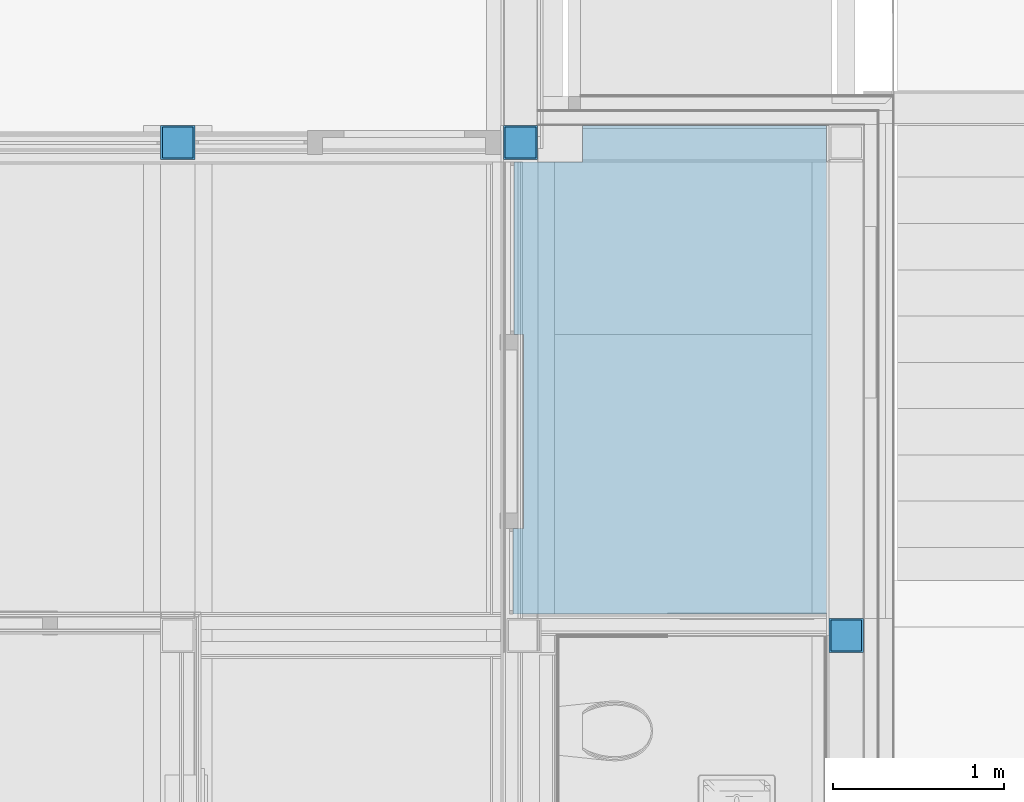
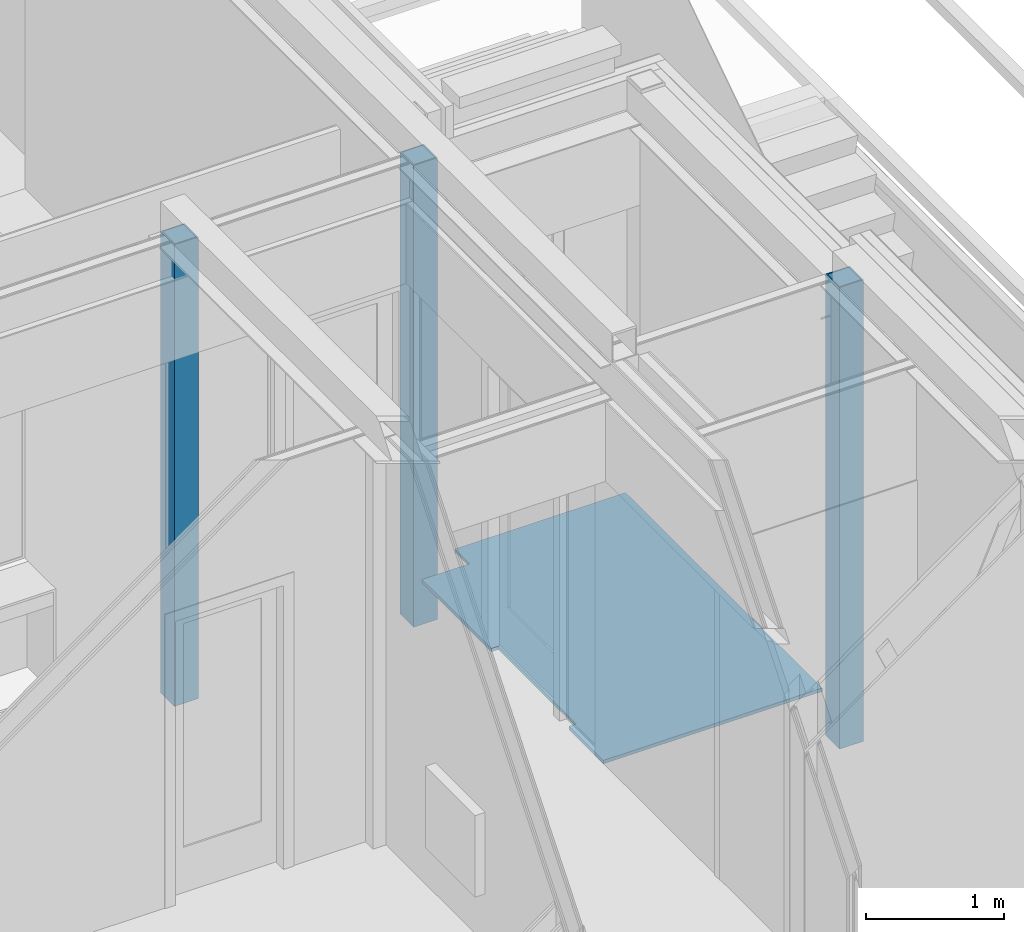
# One storey, part 93 of 165: 7 building element parts, 4 elements without a shape of their own.
"""IFC2X3 building model written with IfcOpenShell, lengths in millimetres."""

import ifcopenshell
import ifcopenshell.guid

model = None  # the IFC model being written
_history = None  # IfcOwnerHistory: only IFC2X3 demands one
_inside = {}  # id of a spatial element -> (the spatial element, [elements in it])
_under = {}  # id of a project, library or spatial element -> (it, [spatial elements below it])
_declared = {}  # id of a project -> (the project, [libraries it declares])
_typed = {}  # id of a type object -> (the type object, [elements of that type])
_made_of = {}  # id of a material, layer set ... -> (it, [elements and type objects made of it])


def new_model(schema):
    """Start an empty IFC model of exactly this schema.

    Asked for "IFC4X3", IfcOpenShell would pick the latest addendum, in which some entities
    have other attributes; the version numbers below select the first issue.
    IFC2X3 requires an IfcOwnerHistory on every rooted entity: one is made here for all.
    """
    global model, _history
    if schema == "IFC4X3":
        model = ifcopenshell.file(schema_version=(4, 3, 0, 0))
    else:
        model = ifcopenshell.file(schema=schema)
    _inside.clear()
    _under.clear()
    _declared.clear()
    _typed.clear()
    _made_of.clear()
    _history = None
    if model.schema == "IFC2X3":
        org = make("IfcOrganization", Name="unknown")
        user = make(
            "IfcPersonAndOrganization",
            ThePerson=make("IfcPerson", FamilyName="unknown"),
            TheOrganization=org,
        )
        app = make(
            "IfcApplication",
            ApplicationDeveloper=org,
            Version="unknown",
            ApplicationFullName="unknown",
            ApplicationIdentifier="unknown",
        )
        _history = make(
            "IfcOwnerHistory",
            OwningUser=user,
            OwningApplication=app,
            ChangeAction="ADDED",
            CreationDate=0,
        )
    return model


def make(cls, **values):
    """One entity of the class cls with the attributes given. An attribute that is None is left unset."""
    return model.create_entity(
        cls, **{name: value for name, value in values.items() if value is not None}
    )


def entity(cls, *values):
    """Any entity or typed value of the class cls, its attributes in the order of the schema. None: left unset."""
    e = model.create_entity(cls)
    for i, value in enumerate(values):
        if value is not None:
            e[i] = value
    return e


def rooted(cls, **values):
    """An entity with a GlobalId (a new one), such as an element, a storey or a relation."""
    return make(cls, GlobalId=ifcopenshell.guid.new(), OwnerHistory=_history, **values)


def si_unit(unit_type, name, prefix=None):
    """IfcSIUnit, for example si_unit("LENGTHUNIT", "METRE", prefix="MILLI")."""
    return make("IfcSIUnit", UnitType=unit_type, Prefix=prefix, Name=name)


def converted_unit(unit_type, name, factor, base, dimensions=None, offset=None):
    """IfcConversionBasedUnit, such as the inch: factor (a typed value) times the base unit."""
    return make(
        "IfcConversionBasedUnit"
        if offset is None
        else "IfcConversionBasedUnitWithOffset",
        ConversionOffset=offset,
        Dimensions=None
        if dimensions is None
        else entity("IfcDimensionalExponents", *dimensions),
        UnitType=unit_type,
        Name=name,
        ConversionFactor=make(
            "IfcMeasureWithUnit", ValueComponent=factor, UnitComponent=base
        ),
    )


def derived_unit(unit_type, elements):
    """IfcDerivedUnit: a product of units, each with its exponent."""
    return make(
        "IfcDerivedUnit",
        Elements=[
            make("IfcDerivedUnitElement", Unit=unit, Exponent=power)
            for unit, power in elements
        ],
        UnitType=unit_type,
    )


def money_unit(currency):
    """IfcMonetaryUnit."""
    return make("IfcMonetaryUnit", Currency=currency)


def assignment(units):
    """IfcUnitAssignment: the units of a project."""
    return None if units is None else make("IfcUnitAssignment", Units=units)


def point(xyz):
    """IfcCartesianPoint."""
    return None if xyz is None else make("IfcCartesianPoint", Coordinates=xyz)


def direction(xyz):
    """IfcDirection."""
    return None if xyz is None else make("IfcDirection", DirectionRatios=xyz)


def frame(location, z_axis=None, x_axis=None):
    """IfcAxis2Placement3D, a coordinate frame: its origin and axes. An axis left out is left unset."""
    return make(
        "IfcAxis2Placement3D",
        Location=point(location),
        Axis=direction(z_axis),
        RefDirection=direction(x_axis),
    )


def origin_with_axes():
    """The frame at (0, 0, 0) with the z axis (0, 0, 1) and the x axis (1, 0, 0) written out."""
    return frame((0.0, 0.0, 0.0), z_axis=(0.0, 0.0, 1.0), x_axis=(1.0, 0.0, 0.0))


def place(relative_to, where):
    """IfcLocalPlacement: puts the frame where relative to a parent placement (None: the world)."""
    return make(
        "IfcLocalPlacement", PlacementRelTo=relative_to, RelativePlacement=where
    )


def context(
    kind, dimensions, precision=None, world=None, true_north=None, identifier=None
):
    """IfcGeometricRepresentationContext, for example the 3D "Model" context."""
    return make(
        "IfcGeometricRepresentationContext",
        ContextIdentifier=identifier,
        ContextType=kind,
        CoordinateSpaceDimension=dimensions,
        Precision=precision,
        WorldCoordinateSystem=world,
        TrueNorth=true_north,
    )


def subcontext(parent, identifier, kind, view, scale=None):
    """IfcGeometricRepresentationSubContext, for example "Body" below "Model"."""
    return make(
        "IfcGeometricRepresentationSubContext",
        ContextIdentifier=identifier,
        ContextType=kind,
        ParentContext=parent,
        TargetScale=scale,
        TargetView=view,
    )


def project(units=None, contexts=None):
    """IfcProject with its units and contexts."""
    return rooted(
        "IfcProject",
        Name="project",
        RepresentationContexts=contexts,
        UnitsInContext=assignment(units),
    )


def spatial(cls, under=None, at=None, **own):
    """A site, building, storey or space (cls), placed at a placement, below another one or the project."""
    s = rooted(cls, ObjectPlacement=at, **own)
    if under is not None:
        _under.setdefault(under.id(), (under, []))[1].append(s)
    return s


def faces_of(points, faces, orient=None, outer=None):
    """IfcFace entities. A face is a list of loops; a loop is a list of indices into points, from 0.

    orient and outer hold one flag for each loop. By default every Orientation is true, the
    first loop of a face is its IfcFaceOuterBound and the others are IfcFaceBound.
    """
    made = []
    for i, loops in enumerate(faces):
        bounds = []
        for j, loop in enumerate(loops):
            is_outer = j == 0 if outer is None else outer[i][j]
            bounds.append(
                make(
                    "IfcFaceOuterBound" if is_outer else "IfcFaceBound",
                    Bound=make("IfcPolyLoop", Polygon=[points[k] for k in loop]),
                    Orientation=True if orient is None else orient[i][j],
                )
            )
        made.append(make("IfcFace", Bounds=bounds))
    return made


def faceted_brep(points, faces, orient=None, outer=None, voids=None):
    """IfcFacetedBrep: a solid bounded by flat faces; with voids (closed shells), ...WithVoids."""
    shared = [point(p) for p in points]
    hull = make("IfcClosedShell", CfsFaces=faces_of(shared, faces, orient, outer))
    if voids is None:
        return make("IfcFacetedBrep", Outer=hull)
    return make(
        "IfcFacetedBrepWithVoids",
        Outer=hull,
        Voids=[
            make(cls, CfsFaces=faces_of(shared, fs, o, b)) for cls, fs, o, b in voids
        ],
    )


def shape(context_of_items, identifier, shape_type, items):
    """IfcShapeRepresentation: the items that make up one representation, for example the "Body"."""
    return make(
        "IfcShapeRepresentation",
        ContextOfItems=context_of_items,
        RepresentationIdentifier=identifier,
        RepresentationType=shape_type,
        Items=items,
    )


def material(Name=None, Category=None):
    """IfcMaterial."""
    return make("IfcMaterial", Name=Name, Category=Category)


def made_of(thing, what):
    """Note that an element or type object is made of a material, layer set ...; save() writes the relation."""
    if what is not None:
        _made_of.setdefault(what.id(), (what, []))[1].append(thing)
    return thing


def type_object(cls, material=None, **own):
    """A type object (cls), such as IfcWallType, which elements share."""
    return made_of(rooted(cls, **own), material)


def element(
    cls,
    number,
    at=None,
    inside=None,
    cuts=None,
    type_object=None,
    material=None,
    context=None,
    identifier="Body",
    shape_type=None,
    held_by="IfcProductDefinitionShape",
    body=None,
    shapes=None,
    **own,
):
    """One element of the class cls, such as IfcWall. Its Tag is "e" and its number.

    at: its placement. inside: the storey or other place that contains it. cuts: it is an
    opening in that element (IfcRelVoidsElement). A single representation is given by context,
    identifier, shape_type and body (its items); several are given by shapes. held_by: the class
    of the entity that holds the representations. save() writes the other relations.
    """
    e = rooted(cls, Tag="e%d" % number, ObjectPlacement=at, **own)
    if body is not None:
        shapes = [shape(context, identifier, shape_type, body)]
    if shapes is not None:
        e.Representation = make(held_by, Representations=shapes)
    if inside is not None:
        _inside.setdefault(inside.id(), (inside, []))[1].append(e)
    if cuts is not None:
        rooted(
            "IfcRelVoidsElement", RelatingBuildingElement=cuts, RelatedOpeningElement=e
        )
    if type_object is not None:
        _typed.setdefault(type_object.id(), (type_object, []))[1].append(e)
    return made_of(e, material)


def aggregate(whole, parts):
    """IfcRelAggregates: a whole, such as a stair, and the parts it consists of."""
    return rooted("IfcRelAggregates", RelatingObject=whole, RelatedObjects=parts)


def save(model, path):
    """Write the relations noted so far, then the file.

    IfcRelAggregates (storeys below a building ...), IfcRelContainedInSpatialStructure (elements
    in a storey), IfcRelDefinesByType, IfcRelAssociatesMaterial and IfcRelDeclares: one each for
    every whole, place, type object, material and project.
    """
    for whole, parts in _under.values():
        aggregate(whole, parts)
    for where, things in _inside.values():
        rooted(
            "IfcRelContainedInSpatialStructure",
            RelatedElements=things,
            RelatingStructure=where,
        )
    for kind, things in _typed.values():
        rooted("IfcRelDefinesByType", RelatedObjects=things, RelatingType=kind)
    for what, things in _made_of.values():
        rooted("IfcRelAssociatesMaterial", RelatedObjects=things, RelatingMaterial=what)
    for by, libraries in _declared.values():
        rooted("IfcRelDeclares", RelatingContext=by, RelatedDefinitions=libraries)
    model.write(path)


model = new_model("IFC2X3")

# Units and contexts
model_context = context("Model", 3, precision=0.01, world=origin_with_axes(), true_north=direction((0.0, 1.0)))
body_context = subcontext(model_context, "Body", "Model", "MODEL_VIEW")
ifc_project = project(units=[si_unit("LENGTHUNIT", "METRE", prefix="MILLI"), si_unit("AREAUNIT", "SQUARE_METRE"), si_unit("VOLUMEUNIT", "CUBIC_METRE"), converted_unit("PLANEANGLEUNIT", "DEGREE", entity("IfcPlaneAngleMeasure", 0.0174532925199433), si_unit("PLANEANGLEUNIT", "RADIAN"), dimensions=[0, 0, 0, 0, 0, 0, 0]), money_unit("EUR"), converted_unit("TIMEUNIT", "Year", entity("IfcTimeMeasure", 31556926.0), si_unit("TIMEUNIT", "SECOND"), dimensions=[0, 0, 1, 0, 0, 0, 0]), si_unit("MASSUNIT", "GRAM", prefix="KILO"), si_unit("THERMODYNAMICTEMPERATUREUNIT", "DEGREE_CELSIUS"), si_unit("LUMINOUSINTENSITYUNIT", "LUMEN"), si_unit("ENERGYUNIT", "JOULE", prefix="MEGA"), derived_unit("THERMALCONDUCTANCEUNIT", [(si_unit("POWERUNIT", "WATT"), 1), (si_unit("LENGTHUNIT", "METRE"), -1), (si_unit("THERMODYNAMICTEMPERATUREUNIT", "KELVIN"), -1)]), derived_unit("SPECIFICHEATCAPACITYUNIT", [(si_unit("ENERGYUNIT", "JOULE"), 1), (si_unit("MASSUNIT", "GRAM", prefix="KILO"), -1), (si_unit("THERMODYNAMICTEMPERATUREUNIT", "KELVIN"), -1)]), derived_unit("MASSDENSITYUNIT", [(si_unit("MASSUNIT", "GRAM", prefix="KILO"), 1), (si_unit("VOLUMEUNIT", "CUBIC_METRE"), -1)])], contexts=[model_context])

# Site, building, storey
site_placement = place(None, origin_with_axes())
site = spatial("IfcSite", under=ifc_project, at=site_placement, Name="Site", CompositionType="ELEMENT")
building_placement = place(site_placement, origin_with_axes())
building = spatial("IfcBuilding", under=site, at=building_placement, Name="Naam gebouw", CompositionType="ELEMENT")
storey_placement = place(building_placement, origin_with_axes())
storey = spatial("IfcBuildingStorey", under=building, at=storey_placement, Name="Begane grond", CompositionType="ELEMENT", Elevation=0.0)

# Column, building element parts
column_type = type_object("IfcColumnType", Name="200X200X10 200 x 200", PredefinedType="COLUMN")
column_1_placement = place(storey_placement, frame((24499.99903999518, 22324.99984707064, -480.0), z_axis=(0.0, 0.0, 1.0), x_axis=(1.0, 0.0, 0.0)))
column_1 = element("IfcColumn", 1, at=column_1_placement, inside=storey, type_object=column_type, Name="28_Kolom-x", ObjectType="COLUMN")
ifc_material_1 = material(Name="Beton gewapend C")
building_element_part_1_placement = place(column_1_placement, origin_with_axes())
building_element_part_1 = element("IfcBuildingElementPart", 2, at=building_element_part_1_placement, material=ifc_material_1, Name="Beton gewapend C", context=body_context, shape_type="Brep", body=[
    faceted_brep([(-89.99999999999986, 89.99999999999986, 4060.000029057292), (89.99999999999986, 89.99999999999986, 4060.000029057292), (89.99999999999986, 89.99999999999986, 0.0), (-89.99999999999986, 89.99999999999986, 0.0), (89.99999999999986, -89.99999999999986, 4060.000029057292), (-89.99999999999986, -89.99999999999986, 4060.000029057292), (89.99999999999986, -89.99999999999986, 0.0), (-89.99999999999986, -89.99999999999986, 0.0)], [[[0, 1, 2, 3]], [[4, 1, 0, 5]], [[1, 4, 6, 2]], [[2, 6, 7, 3]], [[5, 0, 3, 7]], [[4, 5, 7, 6]]]),
    faceted_brep([(89.99999999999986, -89.99999999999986, 4075.000029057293), (89.99999999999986, 89.99999999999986, 4075.000029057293), (89.99999999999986, 89.99999999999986, 4079.999999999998), (89.99999999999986, -89.99999999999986, 4079.999999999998), (-89.99999999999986, 89.99999999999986, 4075.000029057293), (-89.99999999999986, -89.99999999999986, 4075.000029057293), (-89.99999999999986, 89.99999999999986, 4079.999999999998), (-89.99999999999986, -89.99999999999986, 4079.999999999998)], [[[0, 1, 2, 3]], [[4, 1, 0, 5]], [[1, 4, 6, 2]], [[2, 6, 7, 3]], [[5, 0, 3, 7]], [[4, 5, 7, 6]]]),
])
ifc_material_2 = material(Name="Metaal - Staal C")
building_element_part_2_placement = place(column_1_placement, origin_with_axes())
building_element_part_2 = element("IfcBuildingElementPart", 3, at=building_element_part_2_placement, material=ifc_material_2, Name="Metaal - Staal C", context=body_context, shape_type="Brep", body=[
    faceted_brep([(-100.0000000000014, -100.0000000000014, 0.0), (100.0000000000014, -100.0000000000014, 0.0), (100.0000000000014, -100.0000000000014, 4079.999999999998), (-100.0000000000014, -100.0000000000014, 4079.999999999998), (-100.0000000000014, 100.0000000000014, 0.0), (100.0000000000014, 100.0000000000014, 0.0), (-89.99999999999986, -89.99999999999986, 0.0), (89.99999999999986, -89.99999999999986, 0.0), (89.99999999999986, 89.99999999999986, 0.0), (-89.99999999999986, 89.99999999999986, 0.0), (100.0000000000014, 100.0000000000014, 4079.999999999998), (-100.0000000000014, 100.0000000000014, 4079.999999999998), (-89.99999999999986, -89.99999999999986, 4079.999999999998), (-89.99999999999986, 89.99999999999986, 4079.999999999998), (89.99999999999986, 89.99999999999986, 4079.999999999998), (89.99999999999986, -89.99999999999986, 4079.999999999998)], [[[0, 1, 2, 3]], [[0, 4, 5, 1], [6, 7, 8, 9]], [[1, 5, 10, 2]], [[3, 2, 10, 11], [12, 13, 14, 15]], [[4, 0, 3, 11]], [[5, 4, 11, 10]], [[7, 6, 12, 15]], [[8, 7, 15, 14]], [[9, 8, 14, 13]], [[6, 9, 13, 12]]]),
])
aggregate(column_1, [building_element_part_1, building_element_part_2])

column_2_placement = place(storey_placement, frame((28399.99998415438, 19450.00039292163, -480.0), z_axis=(0.0, 0.0, 1.0), x_axis=(1.0, 0.0, 0.0)))
column_2 = element("IfcColumn", 4, at=column_2_placement, inside=storey, type_object=column_type, Name="28_Kolom-x", ObjectType="COLUMN")
building_element_part_3_placement = place(column_2_placement, origin_with_axes())
building_element_part_3 = element("IfcBuildingElementPart", 5, at=building_element_part_3_placement, material=ifc_material_1, Name="Beton gewapend C", context=body_context, shape_type="Brep", body=[
    faceted_brep([(89.99999999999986, 0.0, 4030.0), (89.99999999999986, 0.0, 4050.000000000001), (89.99999999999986, 89.99999999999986, 4050.000000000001), (89.99999999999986, 89.99999999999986, 4079.999999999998), (89.99999999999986, -89.99999999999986, 4079.999999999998), (89.99999999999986, -89.99999999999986, 4074.999999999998), (89.99999999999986, 0.0, 4074.999999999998), (89.99999999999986, 0.0, 4062.999999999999), (89.99999999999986, -89.99999999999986, 4062.999999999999), (89.99999999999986, -89.99999999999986, 0.0), (89.99999999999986, 89.99999999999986, 0.0), (89.99999999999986, 89.99999999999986, 3773.0), (89.99999999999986, 0.0, 3773.0), (89.99999999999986, 0.0, 3785.0), (89.99999999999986, 89.99999999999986, 3785.0), (89.99999999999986, 89.99999999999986, 4030.0), (-89.99999999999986, 0.0, 4030.0), (-89.99999999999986, 0.0, 4050.000000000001), (-89.99999999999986, 89.99999999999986, 4050.000000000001), (-89.99999999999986, 89.99999999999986, 4079.999999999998), (-89.99999999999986, -89.99999999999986, 4079.999999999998), (-89.99999999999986, -89.99999999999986, 4074.999999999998), (-89.99999999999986, 0.0, 4074.999999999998), (-89.99999999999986, 0.0, 4062.999999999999), (-89.99999999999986, -89.99999999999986, 4062.999999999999), (-89.99999999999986, -89.99999999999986, 0.0), (-89.99999999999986, 89.99999999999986, 0.0), (-89.99999999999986, 89.99999999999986, 3773.0), (-89.99999999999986, 0.0, 3773.0), (-89.99999999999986, 0.0, 3785.0), (-89.99999999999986, 89.99999999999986, 3785.0), (-89.99999999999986, 89.99999999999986, 4030.0)], [[[0, 1, 2, 3, 4, 5, 6, 7, 8, 9, 10, 11, 12, 13, 14, 15]], [[1, 0, 16, 17]], [[18, 2, 1, 17]], [[2, 18, 19, 3]], [[3, 19, 20, 4]], [[21, 5, 4, 20]], [[6, 5, 21, 22]], [[7, 6, 22, 23]], [[8, 7, 23, 24]], [[8, 24, 25, 9]], [[10, 9, 25, 26]], [[27, 11, 10, 26]], [[12, 11, 27, 28]], [[13, 12, 28, 29]], [[30, 14, 13, 29]], [[31, 15, 14, 30]], [[0, 15, 31, 16]], [[16, 31, 30, 29, 28, 27, 26, 25, 24, 23, 22, 21, 20, 19, 18, 17]]]),
])
building_element_part_4_placement = place(column_2_placement, origin_with_axes())
building_element_part_4 = element("IfcBuildingElementPart", 6, at=building_element_part_4_placement, material=ifc_material_2, Name="Metaal - Staal C", context=body_context, shape_type="Brep", body=[
    faceted_brep([(-100.0000000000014, -100.0000000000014, 0.0), (100.0000000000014, -100.0000000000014, 0.0), (100.0000000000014, -100.0000000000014, 4079.999999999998), (-100.0000000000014, -100.0000000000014, 4079.999999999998), (-100.0000000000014, 100.0000000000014, 0.0), (100.0000000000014, 100.0000000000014, 0.0), (-89.99999999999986, -89.99999999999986, 0.0), (89.99999999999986, -89.99999999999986, 0.0), (89.99999999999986, 89.99999999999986, 0.0), (-89.99999999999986, 89.99999999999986, 0.0), (100.0000000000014, 100.0000000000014, 4079.999999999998), (-100.0000000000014, 100.0000000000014, 4079.999999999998), (-89.99999999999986, -89.99999999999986, 4079.999999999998), (-89.99999999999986, 89.99999999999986, 4079.999999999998), (89.99999999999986, 89.99999999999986, 4079.999999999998), (89.99999999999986, -89.99999999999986, 4079.999999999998)], [[[0, 1, 2, 3]], [[0, 4, 5, 1], [6, 7, 8, 9]], [[1, 5, 10, 2]], [[3, 2, 10, 11], [12, 13, 14, 15]], [[4, 0, 3, 11]], [[5, 4, 11, 10]], [[7, 6, 12, 15]], [[8, 7, 15, 14]], [[9, 8, 14, 13]], [[6, 9, 13, 12]]]),
])
aggregate(column_2, [building_element_part_3, building_element_part_4])

column_3_placement = place(storey_placement, frame((26500.0, 22324.99984707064, -480.0), z_axis=(0.0, 0.0, 1.0), x_axis=(1.0, 0.0, 0.0)))
column_3 = element("IfcColumn", 7, at=column_3_placement, inside=storey, type_object=column_type, Name="28_Kolom-x", ObjectType="COLUMN")
building_element_part_5_placement = place(column_3_placement, origin_with_axes())
building_element_part_5 = element("IfcBuildingElementPart", 8, at=building_element_part_5_placement, material=ifc_material_1, Name="Beton gewapend C", context=body_context, shape_type="Brep", body=[
    faceted_brep([(-89.99999999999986, 89.99999999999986, 3773.0), (89.99999999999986, 89.99999999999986, 3773.0), (89.99999999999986, 89.99999999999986, 0.0), (-89.99999999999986, 89.99999999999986, 0.0), (89.99999999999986, -89.99999999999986, 3773.0), (-89.99999999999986, -89.99999999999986, 3773.0), (89.99999999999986, -89.99999999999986, 0.0), (-89.99999999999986, -89.99999999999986, 0.0)], [[[0, 1, 2, 3]], [[4, 1, 0, 5]], [[1, 4, 6, 2]], [[2, 6, 7, 3]], [[5, 0, 3, 7]], [[4, 5, 7, 6]]]),
    faceted_brep([(89.99999999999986, 89.99999999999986, 4030.0), (89.99999999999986, -89.99999999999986, 4030.0), (89.99999999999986, -89.99999999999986, 3785.0), (89.99999999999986, 89.99999999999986, 3785.0), (-89.99999999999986, 89.99999999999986, 4030.0), (-89.99999999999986, -89.99999999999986, 4030.0), (-89.99999999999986, -89.99999999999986, 3785.0), (-89.99999999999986, 89.99999999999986, 3785.0)], [[[0, 1, 2, 3]], [[1, 0, 4, 5]], [[1, 5, 6, 2]], [[7, 3, 2, 6]], [[4, 0, 3, 7]], [[5, 4, 7, 6]]]),
    faceted_brep([(-89.99999999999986, 89.99999999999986, 4063.0), (89.99999999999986, 89.99999999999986, 4063.0), (89.99999999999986, 89.99999999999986, 4050.000000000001), (-89.99999999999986, 89.99999999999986, 4050.000000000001), (89.99999999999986, -89.99999999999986, 4063.0), (-89.99999999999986, -89.99999999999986, 4063.0), (89.99999999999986, -89.99999999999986, 4050.000000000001), (-89.99999999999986, -89.99999999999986, 4050.000000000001)], [[[0, 1, 2, 3]], [[4, 1, 0, 5]], [[1, 4, 6, 2]], [[3, 2, 6, 7]], [[5, 0, 3, 7]], [[4, 5, 7, 6]]]),
    faceted_brep([(89.99999999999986, -89.99999999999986, 4074.999999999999), (89.99999999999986, 89.99999999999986, 4074.999999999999), (89.99999999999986, 89.99999999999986, 4079.999999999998), (89.99999999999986, -89.99999999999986, 4079.999999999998), (-89.99999999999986, 89.99999999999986, 4074.999999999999), (-89.99999999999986, -89.99999999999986, 4074.999999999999), (-89.99999999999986, 89.99999999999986, 4079.999999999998), (-89.99999999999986, -89.99999999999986, 4079.999999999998)], [[[0, 1, 2, 3]], [[4, 1, 0, 5]], [[1, 4, 6, 2]], [[2, 6, 7, 3]], [[5, 0, 3, 7]], [[4, 5, 7, 6]]]),
])
building_element_part_6_placement = place(column_3_placement, origin_with_axes())
building_element_part_6 = element("IfcBuildingElementPart", 9, at=building_element_part_6_placement, material=ifc_material_2, Name="Metaal - Staal C", context=body_context, shape_type="Brep", body=[
    faceted_brep([(-100.0000000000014, -100.0000000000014, 0.0), (100.0000000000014, -100.0000000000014, 0.0), (100.0000000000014, -100.0000000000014, 4079.999999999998), (-100.0000000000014, -100.0000000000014, 4079.999999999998), (-100.0000000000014, 100.0000000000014, 0.0), (100.0000000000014, 100.0000000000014, 0.0), (-89.99999999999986, -89.99999999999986, 0.0), (89.99999999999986, -89.99999999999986, 0.0), (89.99999999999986, 89.99999999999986, 0.0), (-89.99999999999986, 89.99999999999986, 0.0), (100.0000000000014, 100.0000000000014, 4079.999999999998), (-100.0000000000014, 100.0000000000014, 4079.999999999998), (-89.99999999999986, -89.99999999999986, 4079.999999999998), (-89.99999999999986, 89.99999999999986, 4079.999999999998), (89.99999999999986, 89.99999999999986, 4079.999999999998), (89.99999999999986, -89.99999999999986, 4079.999999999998)], [[[0, 1, 2, 3]], [[0, 4, 5, 1], [6, 7, 8, 9]], [[1, 5, 10, 2]], [[3, 2, 10, 11], [12, 13, 14, 15]], [[4, 0, 3, 11]], [[5, 4, 11, 10]], [[7, 6, 12, 15]], [[8, 7, 15, 14]], [[9, 8, 14, 13]], [[6, 9, 13, 12]]]),
])
aggregate(column_3, [building_element_part_5, building_element_part_6])

# Slab, building element part
slab_type = type_object("IfcSlabType", Name="43 Zwevende dekvloer 100", PredefinedType="NOTDEFINED")
slab_placement = place(storey_placement, frame((26461.00000000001, 22210.97623347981, 0.0), z_axis=(0.0, 0.0, 1.0), x_axis=(1.0, 0.0, 0.0)))
slab = element("IfcSlab", 10, at=slab_placement, inside=storey, type_object=slab_type, Name="_Vloer-x", PredefinedType="NOTDEFINED")
ifc_material_3 = material(Name="Isolatie - XPS zwevende dekvloer")
building_element_part_7_placement = place(slab_placement, origin_with_axes())
building_element_part_7 = element("IfcBuildingElementPart", 11, at=building_element_part_7_placement, material=ifc_material_3, Name="Isolatie - XPS zwevende dekvloer", context=body_context, shape_type="Brep", body=[
    faceted_brep([(0.0, 0.0, -100.0), (0.0, -1005.999990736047, -100.0), (0.0, -1005.999990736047, -70.0), (0.0, 0.0, -70.0), (398.999975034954, 0.0, -100.0), (398.999975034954, 214.00000389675, -100.0), (1825.000083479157, 214.00000389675, -100.0), (1824.99999779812, -2635.975827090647, -100.0), (-4.999999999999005, -2635.975827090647, -100.0), (-4.999999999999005, -2135.99999073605, -100.0), (56.99999643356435, -2135.99999073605, -100.0), (56.99999643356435, -1005.999990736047, -100.0), (56.99999643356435, -1005.999990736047, -70.0), (56.99999643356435, -2135.99999073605, -70.0), (-4.999999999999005, -2135.99999073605, -70.0), (-4.999999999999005, -2635.975827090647, -70.0), (1824.99999779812, -2635.975827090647, -70.0), (1825.000083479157, 214.00000389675, -70.0), (398.999975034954, 214.00000389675, -70.0), (398.999975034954, 0.0, -70.0)], [[[0, 1, 2, 3]], [[0, 4, 5, 6, 7, 8, 9, 10, 11, 1]], [[1, 11, 12, 2]], [[3, 2, 12, 13, 14, 15, 16, 17, 18, 19]], [[4, 0, 3, 19]], [[5, 4, 19, 18]], [[6, 5, 18, 17]], [[7, 6, 17, 16]], [[8, 7, 16, 15]], [[9, 8, 15, 14]], [[10, 9, 14, 13]], [[11, 10, 13, 12]]]),
])
aggregate(slab, [building_element_part_7])

save(model, "model.ifc")
